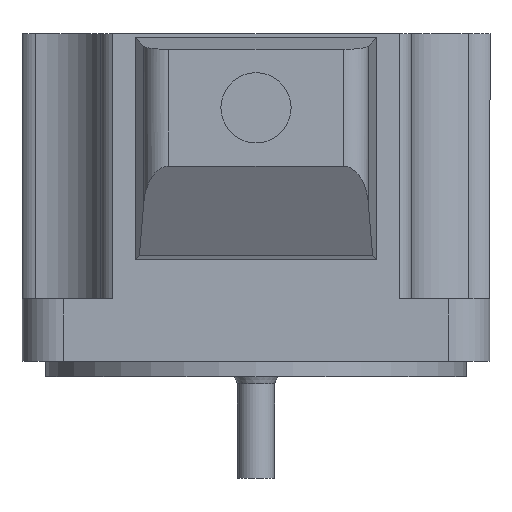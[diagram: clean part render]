
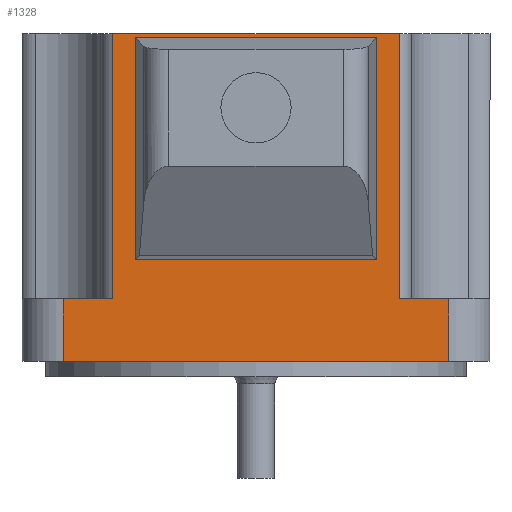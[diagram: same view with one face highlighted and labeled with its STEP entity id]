
A CAD part, front view. The second image highlights one B-rep face of the part: STEP entity #1328.
In plain terms, the highlighted planar face has unit normal (0, -1, 0).
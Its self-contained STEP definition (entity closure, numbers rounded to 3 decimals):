
#10 = ORIENTED_EDGE ( 'NONE', *, *, #99, .F. ) ;
#45 = EDGE_CURVE ( 'NONE', #103, #594, #1276, .T. ) ;
#51 = VECTOR ( 'NONE', #1463, 1000. ) ;
#59 = CARTESIAN_POINT ( 'NONE',  ( -18.397, -30., 8. ) ) ;
#61 = ORIENTED_EDGE ( 'NONE', *, *, #901, .F. ) ;
#91 = VECTOR ( 'NONE', #160, 1000. ) ;
#99 = EDGE_CURVE ( 'NONE', #1787, #278, #288, .T. ) ;
#103 = VERTEX_POINT ( 'NONE', #1617 ) ;
#139 = CARTESIAN_POINT ( 'NONE',  ( 18.397, -30., 8. ) ) ;
#160 = DIRECTION ( 'NONE',  ( 0., 0., -1. ) ) ;
#175 = ORIENTED_EDGE ( 'NONE', *, *, #1206, .F. ) ;
#225 = CARTESIAN_POINT ( 'NONE',  ( -30., -30., 8. ) ) ;
#257 = FACE_BOUND ( 'NONE', #1685, .T. ) ;
#266 = VERTEX_POINT ( 'NONE', #1489 ) ;
#278 = VERTEX_POINT ( 'NONE', #1043 ) ;
#288 = LINE ( 'NONE', #297, #51 ) ;
#297 = CARTESIAN_POINT ( 'NONE',  ( -30., -30., 0. ) ) ;
#339 = CARTESIAN_POINT ( 'NONE',  ( -30., -30., 41.5 ) ) ;
#404 = EDGE_LOOP ( 'NONE', ( #1697, #175, #10, #654, #1621, #1755, #1170, #1036 ) ) ;
#447 = LINE ( 'NONE', #59, #602 ) ;
#458 = CARTESIAN_POINT ( 'NONE',  ( -30., -30., 8. ) ) ;
#469 = CARTESIAN_POINT ( 'NONE',  ( -15.5, -30., 8. ) ) ;
#478 = DIRECTION ( 'NONE',  ( 0., 0., 1. ) ) ;
#479 = CARTESIAN_POINT ( 'NONE',  ( 18.397, -30., 42. ) ) ;
#485 = DIRECTION ( 'NONE',  ( 0., 0., -1. ) ) ;
#493 = CARTESIAN_POINT ( 'NONE',  ( 15.5, -30., 8. ) ) ;
#594 = VERTEX_POINT ( 'NONE', #1450 ) ;
#602 = VECTOR ( 'NONE', #1808, 1000. ) ;
#604 = ORIENTED_EDGE ( 'NONE', *, *, #821, .F. ) ;
#627 = LINE ( 'NONE', #794, #1402 ) ;
#651 = CARTESIAN_POINT ( 'NONE',  ( 24.7, -30., 8. ) ) ;
#654 = ORIENTED_EDGE ( 'NONE', *, *, #1619, .F. ) ;
#672 = VECTOR ( 'NONE', #1247, 1000. ) ;
#674 = LINE ( 'NONE', #1410, #672 ) ;
#683 = DIRECTION ( 'NONE',  ( 1., 0., 0. ) ) ;
#729 = EDGE_CURVE ( 'NONE', #594, #266, #1217, .T. ) ;
#735 = EDGE_CURVE ( 'NONE', #908, #1855, #1062, .T. ) ;
#794 = CARTESIAN_POINT ( 'NONE',  ( -24.7, -30., 8. ) ) ;
#821 = EDGE_CURVE ( 'NONE', #1562, #103, #1662, .T. ) ;
#822 = CARTESIAN_POINT ( 'NONE',  ( -30., -30., 13. ) ) ;
#827 = ORIENTED_EDGE ( 'NONE', *, *, #729, .F. ) ;
#838 = FACE_OUTER_BOUND ( 'NONE', #404, .T. ) ;
#852 = CARTESIAN_POINT ( 'NONE',  ( -18.397, -30., 42. ) ) ;
#901 = EDGE_CURVE ( 'NONE', #266, #1562, #1367, .T. ) ;
#908 = VERTEX_POINT ( 'NONE', #479 ) ;
#919 = DIRECTION ( 'NONE',  ( 0., 0., -1. ) ) ;
#924 = DIRECTION ( 'NONE',  ( 0., 0., 1. ) ) ;
#943 = VERTEX_POINT ( 'NONE', #1338 ) ;
#987 = VECTOR ( 'NONE', #919, 1000. ) ;
#1016 = EDGE_CURVE ( 'NONE', #943, #1425, #674, .T. ) ;
#1036 = ORIENTED_EDGE ( 'NONE', *, *, #1608, .F. ) ;
#1043 = CARTESIAN_POINT ( 'NONE',  ( -24.7, -30., 0. ) ) ;
#1062 = LINE ( 'NONE', #1332, #91 ) ;
#1067 = VECTOR ( 'NONE', #1812, 1000. ) ;
#1068 = VECTOR ( 'NONE', #1849, 1000. ) ;
#1122 = VERTEX_POINT ( 'NONE', #852 ) ;
#1128 = CARTESIAN_POINT ( 'NONE',  ( -18.397, -30., 8. ) ) ;
#1131 = VECTOR ( 'NONE', #485, 1000. ) ;
#1140 = CARTESIAN_POINT ( 'NONE',  ( -30., -30., 42. ) ) ;
#1170 = ORIENTED_EDGE ( 'NONE', *, *, #1785, .F. ) ;
#1206 = EDGE_CURVE ( 'NONE', #278, #943, #627, .T. ) ;
#1217 = LINE ( 'NONE', #493, #1347 ) ;
#1247 = DIRECTION ( 'NONE',  ( 1., 0., 0. ) ) ;
#1255 = DIRECTION ( 'NONE',  ( 1., 0., 0. ) ) ;
#1267 = VERTEX_POINT ( 'NONE', #1366 ) ;
#1276 = LINE ( 'NONE', #822, #1431 ) ;
#1284 = LINE ( 'NONE', #1140, #1735 ) ;
#1328 = ADVANCED_FACE ( 'NONE', ( #257, #838 ), #1421, .F. ) ;
#1332 = CARTESIAN_POINT ( 'NONE',  ( 18.397, -30., 42. ) ) ;
#1338 = CARTESIAN_POINT ( 'NONE',  ( -24.7, -30., 8. ) ) ;
#1347 = VECTOR ( 'NONE', #478, 1000. ) ;
#1349 = DIRECTION ( 'NONE',  ( 0., 0., 1. ) ) ;
#1357 = LINE ( 'NONE', #651, #1131 ) ;
#1366 = CARTESIAN_POINT ( 'NONE',  ( 24.7, -30., 8. ) ) ;
#1367 = LINE ( 'NONE', #339, #1067 ) ;
#1402 = VECTOR ( 'NONE', #924, 1000. ) ;
#1410 = CARTESIAN_POINT ( 'NONE',  ( -30., -30., 8. ) ) ;
#1421 = PLANE ( 'NONE',  #1579 ) ;
#1425 = VERTEX_POINT ( 'NONE', #1128 ) ;
#1431 = VECTOR ( 'NONE', #1255, 1000. ) ;
#1450 = CARTESIAN_POINT ( 'NONE',  ( 15.5, -30., 13. ) ) ;
#1463 = DIRECTION ( 'NONE',  ( -1., 0., 0. ) ) ;
#1468 = CARTESIAN_POINT ( 'NONE',  ( -15.5, -30., 41.5 ) ) ;
#1489 = CARTESIAN_POINT ( 'NONE',  ( 15.5, -30., 41.5 ) ) ;
#1562 = VERTEX_POINT ( 'NONE', #1468 ) ;
#1573 = LINE ( 'NONE', #225, #1068 ) ;
#1579 = AXIS2_PLACEMENT_3D ( 'NONE', #458, #1656, #1349 ) ;
#1608 = EDGE_CURVE ( 'NONE', #1425, #1122, #447, .T. ) ;
#1617 = CARTESIAN_POINT ( 'NONE',  ( -15.5, -30., 13. ) ) ;
#1619 = EDGE_CURVE ( 'NONE', #1267, #1787, #1357, .T. ) ;
#1621 = ORIENTED_EDGE ( 'NONE', *, *, #1810, .F. ) ;
#1656 = DIRECTION ( 'NONE',  ( 0., 1., 0. ) ) ;
#1662 = LINE ( 'NONE', #469, #987 ) ;
#1685 = EDGE_LOOP ( 'NONE', ( #827, #1769, #604, #61 ) ) ;
#1697 = ORIENTED_EDGE ( 'NONE', *, *, #1016, .F. ) ;
#1735 = VECTOR ( 'NONE', #683, 1000. ) ;
#1755 = ORIENTED_EDGE ( 'NONE', *, *, #735, .F. ) ;
#1769 = ORIENTED_EDGE ( 'NONE', *, *, #45, .F. ) ;
#1785 = EDGE_CURVE ( 'NONE', #1122, #908, #1284, .T. ) ;
#1787 = VERTEX_POINT ( 'NONE', #1866 ) ;
#1808 = DIRECTION ( 'NONE',  ( 0., 0., 1. ) ) ;
#1810 = EDGE_CURVE ( 'NONE', #1855, #1267, #1573, .T. ) ;
#1812 = DIRECTION ( 'NONE',  ( -1., 0., 0. ) ) ;
#1849 = DIRECTION ( 'NONE',  ( 1., 0., 0. ) ) ;
#1855 = VERTEX_POINT ( 'NONE', #139 ) ;
#1866 = CARTESIAN_POINT ( 'NONE',  ( 24.7, -30., 0. ) ) ;
